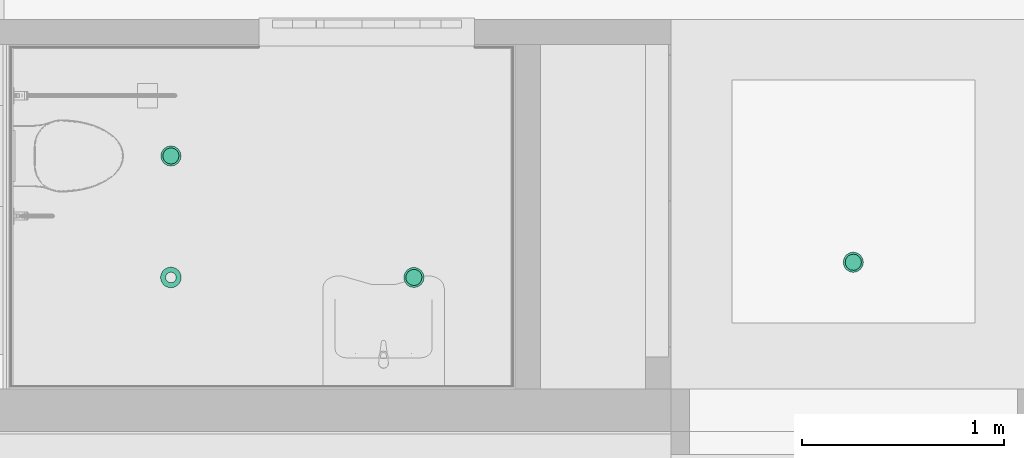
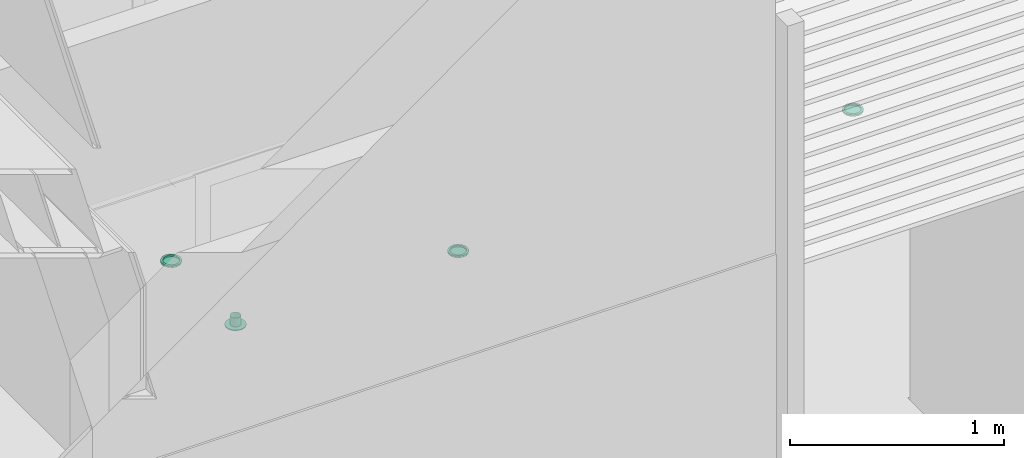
# One storey, part 246 of 347: 4 flow terminals.
"""IFC2X3 building model written with IfcOpenShell, lengths in millimetres."""

from ifc_helpers import new_model, entity, si_unit, converted_unit, derived_unit, money_unit, direction, frame, origin_with_axes, place, context, subcontext, project, spatial, open_shell, faceted_brep, surface_model, source, transform, mapped, type_object, type_shapes, element, save


model = new_model("IFC2X3")

# Units and contexts
model_context = context("Model", 3, precision=0.01, world=origin_with_axes(), true_north=direction((0.0, 1.0)))
plan_context = context("Plan", 3, precision=0.01, world=origin_with_axes(), true_north=direction((0.0, 1.0)))
body_context = subcontext(model_context, "Body", "Model", "MODEL_VIEW")
ifc_project = project(units=[si_unit("LENGTHUNIT", "METRE", prefix="MILLI"), si_unit("AREAUNIT", "SQUARE_METRE"), si_unit("VOLUMEUNIT", "CUBIC_METRE"), converted_unit("PLANEANGLEUNIT", "DEGREE", entity("IfcPlaneAngleMeasure", 0.0174532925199), si_unit("PLANEANGLEUNIT", "RADIAN"), dimensions=[0, 0, 0, 0, 0, 0, 0]), money_unit("EUR"), converted_unit("TIMEUNIT", "Year", entity("IfcTimeMeasure", 31556926.0), si_unit("TIMEUNIT", "SECOND"), dimensions=[0, 0, 1, 0, 0, 0, 0]), si_unit("MASSUNIT", "GRAM", prefix="KILO"), si_unit("THERMODYNAMICTEMPERATUREUNIT", "DEGREE_CELSIUS"), si_unit("LUMINOUSINTENSITYUNIT", "LUMEN"), si_unit("ENERGYUNIT", "JOULE", prefix="MEGA"), derived_unit("THERMALCONDUCTANCEUNIT", [(si_unit("POWERUNIT", "WATT"), 1), (si_unit("LENGTHUNIT", "METRE"), -1), (si_unit("THERMODYNAMICTEMPERATUREUNIT", "KELVIN"), -1)]), derived_unit("SPECIFICHEATCAPACITYUNIT", [(si_unit("ENERGYUNIT", "JOULE"), 1), (si_unit("MASSUNIT", "GRAM", prefix="KILO"), -1), (si_unit("THERMODYNAMICTEMPERATUREUNIT", "KELVIN"), -1)]), derived_unit("MASSDENSITYUNIT", [(si_unit("MASSUNIT", "GRAM", prefix="KILO"), 1), (si_unit("VOLUMEUNIT", "CUBIC_METRE"), -1)])], contexts=[model_context, plan_context])

# Site, building, storey
site_placement = place(None, origin_with_axes())
site = spatial("IfcSite", under=ifc_project, at=site_placement, Name="Site", CompositionType="ELEMENT")
building_placement = place(site_placement, origin_with_axes())
building = spatial("IfcBuilding", under=site, at=building_placement, Name="Naam gebouw", CompositionType="ELEMENT")
storey_placement = place(building_placement, origin_with_axes())
storey = spatial("IfcBuildingStorey", under=building, at=storey_placement, Name="begane grond", CompositionType="ELEMENT", Elevation=0.0)

# Flow terminals
lamp_type = type_object("IfcLampType", Name="Spot plafond 01 25", PredefinedType="NOTDEFINED")
shared_shape_1 = source(origin_with_axes(), body_context, "Body", "SurfaceModel", [
    faceted_brep([(50.0, 0.0, -10.0), (46.1939766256, 19.1341716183, -10.0), (46.1939766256, 19.1341716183, 0.0), (50.0, 0.0, 0.0), (46.1939766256, -19.1341716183, -10.0), (35.3553390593, -35.3553390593, -10.0), (19.1341716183, -46.1939766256, -10.0), (0.0, -50.0, -10.0), (-19.1341716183, -46.1939766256, -10.0), (-35.3553390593, -35.3553390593, -10.0), (-46.1939766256, -19.1341716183, -10.0), (-50.0, 0.0, -10.0), (-46.1939766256, 19.1341716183, -10.0), (-35.3553390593, 35.3553390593, -10.0), (-19.1341716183, 46.1939766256, -10.0), (0.0, 50.0, -10.0), (19.1341716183, 46.1939766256, -10.0), (35.3553390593, 35.3553390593, -10.0), (40.0, 0.0, -10.0), (36.9551813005, 15.3073372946, -10.0), (28.2842712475, 28.2842712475, -10.0), (15.3073372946, 36.9551813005, -10.0), (0.0, 40.0, -10.0), (-15.3073372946, 36.9551813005, -10.0), (-28.2842712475, 28.2842712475, -10.0), (-36.9551813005, 15.3073372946, -10.0), (-40.0, 0.0, -10.0), (-36.9551813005, -15.3073372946, -10.0), (-28.2842712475, -28.2842712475, -10.0), (-15.3073372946, -36.9551813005, -10.0), (0.0, -40.0, -10.0), (15.3073372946, -36.9551813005, -10.0), (28.2842712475, -28.2842712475, -10.0), (36.9551813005, -15.3073372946, -10.0), (35.3553390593, 35.3553390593, 0.0), (19.1341716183, 46.1939766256, 0.0), (0.0, 50.0, 0.0), (-19.1341716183, 46.1939766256, 0.0), (-35.3553390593, 35.3553390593, 0.0), (-46.1939766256, 19.1341716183, 0.0), (-50.0, 0.0, 0.0), (-46.1939766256, -19.1341716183, 0.0), (-35.3553390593, -35.3553390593, 0.0), (-19.1341716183, -46.1939766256, 0.0), (0.0, -50.0, 0.0), (19.1341716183, -46.1939766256, 0.0), (35.3553390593, -35.3553390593, 0.0), (46.1939766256, -19.1341716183, 0.0), (40.0, 0.0, 0.0), (36.9551813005, -15.3073372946, 0.0), (28.2842712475, -28.2842712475, 0.0), (15.3073372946, -36.9551813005, 0.0), (0.0, -40.0, 0.0), (-15.3073372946, -36.9551813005, 0.0), (-28.2842712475, -28.2842712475, 0.0), (-36.9551813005, -15.3073372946, 0.0), (-40.0, 0.0, 0.0), (-36.9551813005, 15.3073372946, 0.0), (-28.2842712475, 28.2842712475, 0.0), (-15.3073372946, 36.9551813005, 0.0), (0.0, 40.0, 0.0), (15.3073372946, 36.9551813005, 0.0), (28.2842712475, 28.2842712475, 0.0), (36.9551813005, 15.3073372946, 0.0)], [[[0, 1, 2, 3]], [[0, 4, 5, 6, 7, 8, 9, 10, 11, 12, 13, 14, 15, 16, 17, 1], [18, 19, 20, 21, 22, 23, 24, 25, 26, 27, 28, 29, 30, 31, 32, 33]], [[1, 17, 34, 2]], [[3, 2, 34, 35, 36, 37, 38, 39, 40, 41, 42, 43, 44, 45, 46, 47], [48, 49, 50, 51, 52, 53, 54, 55, 56, 57, 58, 59, 60, 61, 62, 63]], [[4, 0, 3, 47]], [[5, 4, 47, 46]], [[6, 5, 46, 45]], [[7, 6, 45, 44]], [[8, 7, 44, 43]], [[9, 8, 43, 42]], [[10, 9, 42, 41]], [[11, 10, 41, 40]], [[12, 11, 40, 39]], [[13, 12, 39, 38]], [[14, 13, 38, 37]], [[15, 14, 37, 36]], [[16, 15, 36, 35]], [[17, 16, 35, 34]], [[19, 18, 48, 63]], [[20, 19, 63, 62]], [[21, 20, 62, 61]], [[22, 21, 61, 60]], [[23, 22, 60, 59]], [[24, 23, 59, 58]], [[25, 24, 58, 57]], [[26, 25, 57, 56]], [[27, 26, 56, 55]], [[28, 27, 55, 54]], [[29, 28, 54, 53]], [[30, 29, 53, 52]], [[31, 30, 52, 51]], [[32, 31, 51, 50]], [[33, 32, 50, 49]], [[18, 33, 49, 48]]]),
    surface_model("IfcShellBasedSurfaceModel", [(40.0, 0.0, -8.9), (36.9551813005, -15.3073372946, -8.9), (28.2842712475, -28.2842712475, -8.9), (15.3073372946, -36.9551813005, -8.9), (0.0, -40.0, -8.9), (-15.3073372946, -36.9551813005, -8.9), (-28.2842712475, -28.2842712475, -8.9), (-36.9551813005, -15.3073372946, -8.9), (-40.0, 0.0, -8.9), (-36.9551813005, 15.3073372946, -8.9), (-28.2842712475, 28.2842712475, -8.9), (-15.3073372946, 36.9551813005, -8.9), (0.0, 40.0, -8.9), (15.3073372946, 36.9551813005, -8.9), (28.2842712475, 28.2842712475, -8.9), (36.9551813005, 15.3073372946, -8.9)], [open_shell([[[0, 1, 2, 3, 4, 5, 6, 7, 8, 9, 10, 11, 12, 13, 14, 15]]])]),
])
type_shapes(lamp_type, [shared_shape_1])
for number, where, z_axis, x_axis, name in (
    (1, (36705.0000178, 27300.0, 2600.0), (0.0, 0.0, 1.0), (1.0, 0.0, 0.0), "63_Lamp-x"),
    (2, (40075.0, 26775.0, 2600.0), (0.0, 0.0, 1.0), (1.0, 0.0, 0.0), "63_Lamp-x"),
    (3, (37905.0000178, 26700.0, 2600.0), (0.0, 0.0, 1.0), (1.0, 0.0, 0.0), "63_Lamp-x"),
):
    element("IfcFlowTerminal", number, at=place(storey_placement, frame(where, z_axis=z_axis, x_axis=x_axis)), inside=storey, type_object=lamp_type, Name=name, ObjectType="Lamp", context=body_context, shape_type="MappedRepresentation", body=[
        mapped(shared_shape_1, transform((0.0, 0.0, 0.0))),
    ])
air_terminal_type = type_object("IfcAirTerminalType", Name="Rooster plafond rond 25", PredefinedType="GRILLE")
shared_shape_2 = source(origin_with_axes(), body_context, "Body", "SurfaceModel", [
    faceted_brep([(51.0, 0.0, -5.0), (49.2622171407, 13.1997713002, -5.0), (49.2622171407, 13.1997713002, 0.0), (51.0, 0.0, 0.0), (49.2622171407, -13.1997713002, -5.0), (44.167295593, -25.5, -5.0), (36.0624458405, -36.0624458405, -5.0), (25.5, -44.167295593, -5.0), (13.1997713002, -49.2622171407, -5.0), (0.0, -51.0, -5.0), (-13.1997713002, -49.2622171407, -5.0), (-25.5, -44.167295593, -5.0), (-36.0624458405, -36.0624458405, -5.0), (-44.167295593, -25.5, -5.0), (-49.2622171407, -13.1997713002, -5.0), (-51.0, 0.0, -5.0), (-49.2622171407, 13.1997713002, -5.0), (-44.167295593, 25.5, -5.0), (-36.0624458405, 36.0624458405, -5.0), (-25.5, 44.167295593, -5.0), (-13.1997713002, 49.2622171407, -5.0), (0.0, 51.0, -5.0), (13.1997713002, 49.2622171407, -5.0), (25.5, 44.167295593, -5.0), (36.0624458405, 36.0624458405, -5.0), (44.167295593, 25.5, -5.0), (26.0, 0.0, -5.0), (25.1140714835, 6.72929517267, -5.0), (22.5166604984, 13.0, -5.0), (18.3847763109, 18.3847763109, -5.0), (13.0, 22.5166604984, -5.0), (6.72929517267, 25.1140714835, -5.0), (0.0, 26.0, -5.0), (-6.72929517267, 25.1140714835, -5.0), (-13.0, 22.5166604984, -5.0), (-18.3847763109, 18.3847763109, -5.0), (-22.5166604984, 13.0, -5.0), (-25.1140714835, 6.72929517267, -5.0), (-26.0, 0.0, -5.0), (-25.1140714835, -6.72929517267, -5.0), (-22.5166604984, -13.0, -5.0), (-18.3847763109, -18.3847763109, -5.0), (-13.0, -22.5166604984, -5.0), (-6.72929517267, -25.1140714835, -5.0), (0.0, -26.0, -5.0), (6.72929517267, -25.1140714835, -5.0), (13.0, -22.5166604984, -5.0), (18.3847763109, -18.3847763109, -5.0), (22.5166604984, -13.0, -5.0), (25.1140714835, -6.72929517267, -5.0), (44.167295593, 25.5, 0.0), (36.0624458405, 36.0624458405, 0.0), (25.5, 44.167295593, 0.0), (13.1997713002, 49.2622171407, 0.0), (0.0, 51.0, 0.0), (-13.1997713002, 49.2622171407, 0.0), (-25.5, 44.167295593, 0.0), (-36.0624458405, 36.0624458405, 0.0), (-44.167295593, 25.5, 0.0), (-49.2622171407, 13.1997713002, 0.0), (-51.0, 0.0, 0.0), (-49.2622171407, -13.1997713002, 0.0), (-44.167295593, -25.5, 0.0), (-36.0624458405, -36.0624458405, 0.0), (-25.5, -44.167295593, 0.0), (-13.1997713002, -49.2622171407, 0.0), (0.0, -51.0, 0.0), (13.1997713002, -49.2622171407, 0.0), (25.5, -44.167295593, 0.0), (36.0624458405, -36.0624458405, 0.0), (44.167295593, -25.5, 0.0), (49.2622171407, -13.1997713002, 0.0), (26.0, 0.0, 0.0), (25.1140714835, -6.72929517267, 0.0), (22.5166604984, -13.0, 0.0), (18.3847763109, -18.3847763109, 0.0), (13.0, -22.5166604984, 0.0), (6.72929517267, -25.1140714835, 0.0), (0.0, -26.0, 0.0), (-6.72929517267, -25.1140714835, 0.0), (-13.0, -22.5166604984, 0.0), (-18.3847763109, -18.3847763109, 0.0), (-22.5166604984, -13.0, 0.0), (-25.1140714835, -6.72929517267, 0.0), (-26.0, 0.0, 0.0), (-25.1140714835, 6.72929517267, 0.0), (-22.5166604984, 13.0, 0.0), (-18.3847763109, 18.3847763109, 0.0), (-13.0, 22.5166604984, 0.0), (-6.72929517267, 25.1140714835, 0.0), (0.0, 26.0, 0.0), (6.72929517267, 25.1140714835, 0.0), (13.0, 22.5166604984, 0.0), (18.3847763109, 18.3847763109, 0.0), (22.5166604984, 13.0, 0.0), (25.1140714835, 6.72929517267, 0.0)], [[[0, 1, 2, 3]], [[0, 4, 5, 6, 7, 8, 9, 10, 11, 12, 13, 14, 15, 16, 17, 18, 19, 20, 21, 22, 23, 24, 25, 1], [26, 27, 28, 29, 30, 31, 32, 33, 34, 35, 36, 37, 38, 39, 40, 41, 42, 43, 44, 45, 46, 47, 48, 49]], [[1, 25, 50, 2]], [[3, 2, 50, 51, 52, 53, 54, 55, 56, 57, 58, 59, 60, 61, 62, 63, 64, 65, 66, 67, 68, 69, 70, 71], [72, 73, 74, 75, 76, 77, 78, 79, 80, 81, 82, 83, 84, 85, 86, 87, 88, 89, 90, 91, 92, 93, 94, 95]], [[4, 0, 3, 71]], [[5, 4, 71, 70]], [[6, 5, 70, 69]], [[7, 6, 69, 68]], [[8, 7, 68, 67]], [[9, 8, 67, 66]], [[10, 9, 66, 65]], [[11, 10, 65, 64]], [[12, 11, 64, 63]], [[13, 12, 63, 62]], [[14, 13, 62, 61]], [[15, 14, 61, 60]], [[16, 15, 60, 59]], [[17, 16, 59, 58]], [[18, 17, 58, 57]], [[19, 18, 57, 56]], [[20, 19, 56, 55]], [[21, 20, 55, 54]], [[22, 21, 54, 53]], [[23, 22, 53, 52]], [[24, 23, 52, 51]], [[25, 24, 51, 50]], [[27, 26, 72, 95]], [[28, 27, 95, 94]], [[29, 28, 94, 93]], [[30, 29, 93, 92]], [[31, 30, 92, 91]], [[32, 31, 91, 90]], [[33, 32, 90, 89]], [[34, 33, 89, 88]], [[35, 34, 88, 87]], [[36, 35, 87, 86]], [[37, 36, 86, 85]], [[38, 37, 85, 84]], [[39, 38, 84, 83]], [[40, 39, 83, 82]], [[41, 40, 82, 81]], [[42, 41, 81, 80]], [[43, 42, 80, 79]], [[44, 43, 79, 78]], [[45, 44, 78, 77]], [[46, 45, 77, 76]], [[47, 46, 76, 75]], [[48, 47, 75, 74]], [[49, 48, 74, 73]], [[26, 49, 73, 72]]]),
    surface_model("IfcShellBasedSurfaceModel", [(0.0, -26.0, 0.0), (6.72929517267, -25.1140714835, 0.0), (6.72929517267, -25.1140714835, 50.0), (0.0, -26.0, 50.0), (13.0, -22.5166604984, 0.0), (13.0, -22.5166604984, 50.0), (-6.72929517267, -25.1140714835, 0.0), (-6.72929517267, -25.1140714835, 50.0), (18.3847763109, -18.3847763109, 0.0), (18.3847763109, -18.3847763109, 50.0), (-13.0, -22.5166604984, 0.0), (-13.0, -22.5166604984, 50.0), (22.5166604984, -13.0, 0.0), (22.5166604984, -13.0, 50.0), (-18.3847763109, -18.3847763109, 0.0), (-18.3847763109, -18.3847763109, 50.0), (25.1140714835, -6.72929517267, 0.0), (25.1140714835, -6.72929517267, 50.0), (-22.5166604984, -13.0, 0.0), (-22.5166604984, -13.0, 50.0), (26.0, 0.0, 0.0), (26.0, 0.0, 50.0), (-25.1140714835, -6.72929517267, 0.0), (-25.1140714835, -6.72929517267, 50.0), (25.1140714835, 6.72929517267, 0.0), (25.1140714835, 6.72929517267, 50.0), (-26.0, 0.0, 0.0), (-26.0, 0.0, 50.0), (22.5166604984, 13.0, 0.0), (22.5166604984, 13.0, 50.0), (-25.1140714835, 6.72929517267, 0.0), (-25.1140714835, 6.72929517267, 50.0), (18.3847763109, 18.3847763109, 0.0), (18.3847763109, 18.3847763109, 50.0), (-22.5166604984, 13.0, 0.0), (-22.5166604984, 13.0, 50.0), (13.0, 22.5166604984, 0.0), (13.0, 22.5166604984, 50.0), (-18.3847763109, 18.3847763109, 0.0), (-18.3847763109, 18.3847763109, 50.0), (6.72929517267, 25.1140714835, 0.0), (6.72929517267, 25.1140714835, 50.0), (-13.0, 22.5166604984, 0.0), (-13.0, 22.5166604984, 50.0), (0.0, 26.0, 0.0), (0.0, 26.0, 50.0), (-6.72929517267, 25.1140714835, 0.0), (-6.72929517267, 25.1140714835, 50.0)], [open_shell([[[0, 1, 2, 3]], [[1, 4, 5, 2]], [[6, 0, 3, 7]], [[4, 8, 9, 5]], [[10, 6, 7, 11]], [[8, 12, 13, 9]], [[14, 10, 11, 15]], [[12, 16, 17, 13]], [[18, 14, 15, 19]], [[16, 20, 21, 17]], [[22, 18, 19, 23]], [[20, 24, 25, 21]], [[26, 22, 23, 27]], [[24, 28, 29, 25]], [[30, 26, 27, 31]], [[28, 32, 33, 29]], [[34, 30, 31, 35]], [[32, 36, 37, 33]], [[38, 34, 35, 39]], [[36, 40, 41, 37]], [[42, 38, 39, 43]], [[40, 44, 45, 41]], [[46, 42, 43, 47]], [[44, 46, 47, 45]]])]),
])
type_shapes(air_terminal_type, [shared_shape_2])
flow_terminal_placement = place(storey_placement, frame((36705.0000178, 26700.0, 2600.0), z_axis=(0.0, 0.0, 1.0), x_axis=(1.0, 0.0, 0.0)))
element("IfcFlowTerminal", 4, at=flow_terminal_placement, inside=storey, type_object=air_terminal_type, Name="57_78 garderobe", context=body_context, shape_type="MappedRepresentation", body=[
    mapped(shared_shape_2, transform((0.0, 0.0, 0.0))),
])

save(model, "model.ifc")
